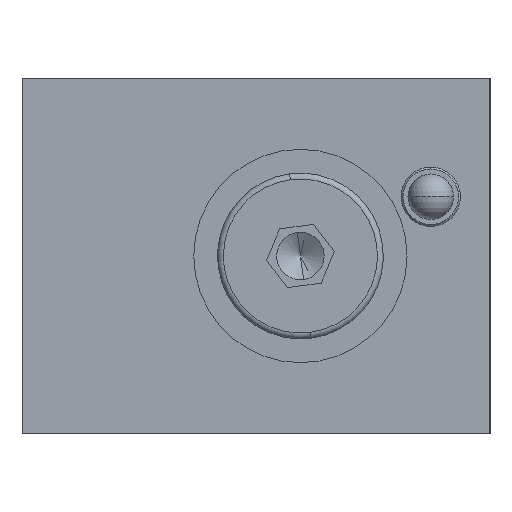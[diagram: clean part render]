
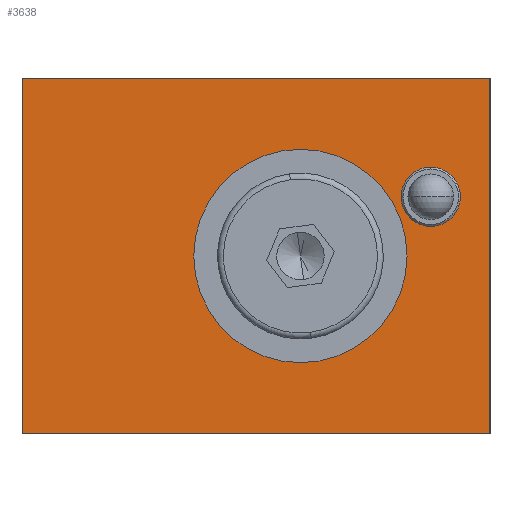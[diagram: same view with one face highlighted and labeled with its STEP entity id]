
A CAD part, left-side view. The second image highlights one B-rep face of the part: STEP entity #3638.
In plain terms, the highlighted planar face has unit normal (-1, 0, 0).
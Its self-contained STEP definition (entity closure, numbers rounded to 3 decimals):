
#5 = AXIS2_PLACEMENT_3D ( 'NONE', #6477, #6436, #6382 ) ;
#32 = AXIS2_PLACEMENT_3D ( 'NONE', #1084, #1478, #1048 ) ;
#87 = ORIENTED_EDGE ( 'NONE', *, *, #3943, .F. ) ;
#116 = AXIS2_PLACEMENT_3D ( 'NONE', #2030, #2142, #2316 ) ;
#190 = VERTEX_POINT ( 'NONE', #2925 ) ;
#241 = FACE_OUTER_BOUND ( 'NONE', #1167, .T. ) ;
#288 = CARTESIAN_POINT ( 'NONE',  ( 0., 19.75, 15. ) ) ;
#322 = VERTEX_POINT ( 'NONE', #384 ) ;
#384 = CARTESIAN_POINT ( 'NONE',  ( 0., -19.75, 15. ) ) ;
#482 = CARTESIAN_POINT ( 'NONE',  ( 0., 19.75, -15. ) ) ;
#526 = FACE_BOUND ( 'NONE', #810, .T. ) ;
#810 = EDGE_LOOP ( 'NONE', ( #1540, #4968 ) ) ;
#922 = DIRECTION ( 'NONE',  ( 0., 0., 1. ) ) ;
#948 = EDGE_LOOP ( 'NONE', ( #6006, #6596 ) ) ;
#1048 = DIRECTION ( 'NONE',  ( 0., 0., 1. ) ) ;
#1051 = CARTESIAN_POINT ( 'NONE',  ( 0., 19.75, -15. ) ) ;
#1084 = CARTESIAN_POINT ( 'NONE',  ( 0., -3.75, 0. ) ) ;
#1167 = EDGE_LOOP ( 'NONE', ( #87, #1546, #5415, #1571 ) ) ;
#1168 = CARTESIAN_POINT ( 'NONE',  ( 0., -3.75, 9. ) ) ;
#1429 = VERTEX_POINT ( 'NONE', #6627 ) ;
#1478 = DIRECTION ( 'NONE',  ( -1., 0., 0. ) ) ;
#1540 = ORIENTED_EDGE ( 'NONE', *, *, #3978, .F. ) ;
#1546 = ORIENTED_EDGE ( 'NONE', *, *, #3436, .T. ) ;
#1571 = ORIENTED_EDGE ( 'NONE', *, *, #4302, .F. ) ;
#1845 = VECTOR ( 'NONE', #3946, 1000. ) ;
#2030 = CARTESIAN_POINT ( 'NONE',  ( 0., 19.75, -15. ) ) ;
#2142 = DIRECTION ( 'NONE',  ( -1., 0., 0. ) ) ;
#2188 = VECTOR ( 'NONE', #3923, 1000. ) ;
#2232 = LINE ( 'NONE', #3549, #2188 ) ;
#2316 = DIRECTION ( 'NONE',  ( 0., 0., 1. ) ) ;
#2892 = DIRECTION ( 'NONE',  ( 0., 0., 1. ) ) ;
#2903 = DIRECTION ( 'NONE',  ( -1., 0., 0. ) ) ;
#2925 = CARTESIAN_POINT ( 'NONE',  ( 0., -3.75, -9. ) ) ;
#2938 = CARTESIAN_POINT ( 'NONE',  ( 0., -3.75, 0. ) ) ;
#2983 = DIRECTION ( 'NONE',  ( 0., 0., 1. ) ) ;
#3002 = DIRECTION ( 'NONE',  ( -1., 0., 0. ) ) ;
#3014 = CARTESIAN_POINT ( 'NONE',  ( 0., -14.75, 5. ) ) ;
#3047 = CARTESIAN_POINT ( 'NONE',  ( 0., -19.75, -15. ) ) ;
#3133 = VERTEX_POINT ( 'NONE', #1168 ) ;
#3211 = VERTEX_POINT ( 'NONE', #4148 ) ;
#3360 = VERTEX_POINT ( 'NONE', #482 ) ;
#3436 = EDGE_CURVE ( 'NONE', #3211, #322, #5620, .T. ) ;
#3446 = EDGE_CURVE ( 'NONE', #322, #4942, #2232, .T. ) ;
#3520 = DIRECTION ( 'NONE',  ( 0., 0., 1. ) ) ;
#3549 = CARTESIAN_POINT ( 'NONE',  ( 0., -20.457, 15. ) ) ;
#3638 = ADVANCED_FACE ( 'NONE', ( #241, #526, #5515 ), #5835, .T. ) ;
#3747 = EDGE_CURVE ( 'NONE', #190, #3133, #6368, .T. ) ;
#3791 = EDGE_CURVE ( 'NONE', #1429, #5798, #6319, .T. ) ;
#3923 = DIRECTION ( 'NONE',  ( 0., 1., 0. ) ) ;
#3943 = EDGE_CURVE ( 'NONE', #3211, #3360, #6147, .T. ) ;
#3946 = DIRECTION ( 'NONE',  ( 0., 1., 0. ) ) ;
#3971 = CARTESIAN_POINT ( 'NONE',  ( 0., -20.457, -15. ) ) ;
#3978 = EDGE_CURVE ( 'NONE', #5798, #1429, #5420, .T. ) ;
#3985 = EDGE_CURVE ( 'NONE', #3133, #190, #6571, .T. ) ;
#4148 = CARTESIAN_POINT ( 'NONE',  ( 0., -19.75, -15. ) ) ;
#4302 = EDGE_CURVE ( 'NONE', #3360, #4942, #4689, .T. ) ;
#4308 = CARTESIAN_POINT ( 'NONE',  ( 0., -14.75, 7.5 ) ) ;
#4674 = VECTOR ( 'NONE', #922, 1000. ) ;
#4689 = LINE ( 'NONE', #1051, #4674 ) ;
#4942 = VERTEX_POINT ( 'NONE', #288 ) ;
#4968 = ORIENTED_EDGE ( 'NONE', *, *, #3791, .F. ) ;
#5415 = ORIENTED_EDGE ( 'NONE', *, *, #3446, .T. ) ;
#5420 = CIRCLE ( 'NONE', #6548, 2.5 ) ;
#5515 = FACE_BOUND ( 'NONE', #948, .T. ) ;
#5620 = LINE ( 'NONE', #3047, #6581 ) ;
#5798 = VERTEX_POINT ( 'NONE', #4308 ) ;
#5835 = PLANE ( 'NONE',  #116 ) ;
#6006 = ORIENTED_EDGE ( 'NONE', *, *, #3985, .F. ) ;
#6147 = LINE ( 'NONE', #3971, #1845 ) ;
#6319 = CIRCLE ( 'NONE', #5, 2.5 ) ;
#6368 = CIRCLE ( 'NONE', #32, 9. ) ;
#6382 = DIRECTION ( 'NONE',  ( 0., 0., 1. ) ) ;
#6436 = DIRECTION ( 'NONE',  ( -1., 0., 0. ) ) ;
#6477 = CARTESIAN_POINT ( 'NONE',  ( 0., -14.75, 5. ) ) ;
#6547 = AXIS2_PLACEMENT_3D ( 'NONE', #2938, #2903, #2892 ) ;
#6548 = AXIS2_PLACEMENT_3D ( 'NONE', #3014, #3002, #2983 ) ;
#6571 = CIRCLE ( 'NONE', #6547, 9. ) ;
#6581 = VECTOR ( 'NONE', #3520, 1000. ) ;
#6596 = ORIENTED_EDGE ( 'NONE', *, *, #3747, .F. ) ;
#6627 = CARTESIAN_POINT ( 'NONE',  ( 0., -14.75, 2.5 ) ) ;
